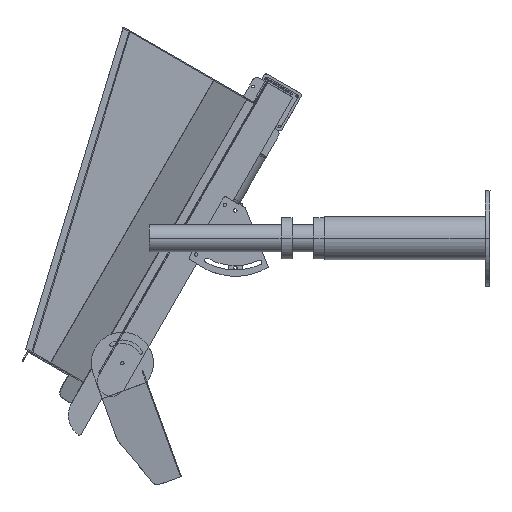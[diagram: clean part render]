
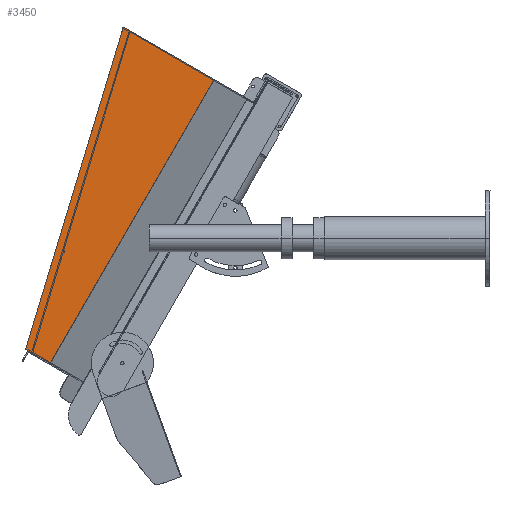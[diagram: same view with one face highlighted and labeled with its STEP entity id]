
A CAD part, left-side view. The second image highlights one B-rep face of the part: STEP entity #3450.
In plain terms, the highlighted planar face has unit normal (-1, 0, 0).
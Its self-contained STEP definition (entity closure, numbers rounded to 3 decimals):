
#398 = AXIS2_PLACEMENT_3D ( 'NONE', #1015, #19452, #19026 ) ;
#402 = ORIENTED_EDGE ( 'NONE', *, *, #3522, .F. ) ;
#514 = VECTOR ( 'NONE', #10049, 1000. ) ;
#1015 = CARTESIAN_POINT ( 'NONE',  ( -3768.201, -228.981, 956.729 ) ) ;
#1227 = AXIS2_PLACEMENT_3D ( 'NONE', #12738, #4454, #17768 ) ;
#2380 = EDGE_CURVE ( 'NONE', #10085, #8226, #7255, .T. ) ;
#2493 = DIRECTION ( 'NONE',  ( 0., 0.29, -0.957 ) ) ;
#2714 = AXIS2_PLACEMENT_3D ( 'NONE', #5284, #12373, #6929 ) ;
#3305 = VECTOR ( 'NONE', #10618, 1000. ) ;
#3450 = ADVANCED_FACE ( 'NONE', ( #12674, #20650 ), #14227, .F. ) ;
#3522 = EDGE_CURVE ( 'NONE', #16491, #7896, #5810, .T. ) ;
#4139 = CARTESIAN_POINT ( 'NONE',  ( -3768.201, -132.609, 985.962 ) ) ;
#4454 = DIRECTION ( 'NONE',  ( -1., 0., 0. ) ) ;
#5283 = VERTEX_POINT ( 'NONE', #13416 ) ;
#5284 = CARTESIAN_POINT ( 'NONE',  ( -3768.201, -164.371, 1030.428 ) ) ;
#5810 = LINE ( 'NONE', #12469, #12924 ) ;
#6652 = EDGE_CURVE ( 'NONE', #7896, #19545, #15168, .T. ) ;
#6806 = CARTESIAN_POINT ( 'NONE',  ( -3768.201, -288.456, 1499.742 ) ) ;
#6929 = DIRECTION ( 'NONE',  ( 0., -0.5, 0.866 ) ) ;
#7130 = ORIENTED_EDGE ( 'NONE', *, *, #13466, .F. ) ;
#7255 = CIRCLE ( 'NONE', #2714, 2.1 ) ;
#7509 = CIRCLE ( 'NONE', #1227, 2.1 ) ;
#7896 = VERTEX_POINT ( 'NONE', #13118 ) ;
#8054 = ORIENTED_EDGE ( 'NONE', *, *, #6652, .F. ) ;
#8226 = VERTEX_POINT ( 'NONE', #17479 ) ;
#8503 = CARTESIAN_POINT ( 'NONE',  ( -3768.201, -228.981, 956.729 ) ) ;
#8800 = ORIENTED_EDGE ( 'NONE', *, *, #9429, .T. ) ;
#8972 = CARTESIAN_POINT ( 'NONE',  ( -3768.201, -135.897, 795.502 ) ) ;
#9252 = LINE ( 'NONE', #4139, #18199 ) ;
#9429 = EDGE_CURVE ( 'NONE', #5283, #19545, #14099, .T. ) ;
#10049 = DIRECTION ( 'NONE',  ( 0., 0.5, -0.866 ) ) ;
#10085 = VERTEX_POINT ( 'NONE', #13721 ) ;
#10618 = DIRECTION ( 'NONE',  ( 0., -0.866, -0.5 ) ) ;
#10839 = DIRECTION ( 'NONE',  ( 0., -0.866, -0.5 ) ) ;
#11199 = EDGE_LOOP ( 'NONE', ( #14700, #8800, #8054, #402 ) ) ;
#11543 = EDGE_LOOP ( 'NONE', ( #7130, #16492 ) ) ;
#12373 = DIRECTION ( 'NONE',  ( -1., 0., 0. ) ) ;
#12469 = CARTESIAN_POINT ( 'NONE',  ( -3768.201, -478.981, 1389.742 ) ) ;
#12674 = FACE_BOUND ( 'NONE', #11543, .T. ) ;
#12738 = CARTESIAN_POINT ( 'NONE',  ( -3768.201, -164.371, 1030.428 ) ) ;
#12924 = VECTOR ( 'NONE', #10839, 1000. ) ;
#13118 = CARTESIAN_POINT ( 'NONE',  ( -3768.201, -478.981, 1389.742 ) ) ;
#13416 = CARTESIAN_POINT ( 'NONE',  ( -3768.201, -83.935, 825.502 ) ) ;
#13466 = EDGE_CURVE ( 'NONE', #8226, #10085, #7509, .T. ) ;
#13721 = CARTESIAN_POINT ( 'NONE',  ( -3768.201, -163.321, 1028.609 ) ) ;
#14099 = LINE ( 'NONE', #15847, #3305 ) ;
#14227 = PLANE ( 'NONE',  #398 ) ;
#14700 = ORIENTED_EDGE ( 'NONE', *, *, #15830, .T. ) ;
#15168 = LINE ( 'NONE', #8503, #514 ) ;
#15830 = EDGE_CURVE ( 'NONE', #16491, #5283, #9252, .T. ) ;
#15847 = CARTESIAN_POINT ( 'NONE',  ( -3768.201, -135.897, 795.502 ) ) ;
#16491 = VERTEX_POINT ( 'NONE', #6806 ) ;
#16492 = ORIENTED_EDGE ( 'NONE', *, *, #2380, .F. ) ;
#17479 = CARTESIAN_POINT ( 'NONE',  ( -3768.201, -165.421, 1032.247 ) ) ;
#17768 = DIRECTION ( 'NONE',  ( 0., -0.5, 0.866 ) ) ;
#18199 = VECTOR ( 'NONE', #2493, 1000. ) ;
#19026 = DIRECTION ( 'NONE',  ( 0., 0.866, 0.5 ) ) ;
#19452 = DIRECTION ( 'NONE',  ( 1., 0., 0. ) ) ;
#19545 = VERTEX_POINT ( 'NONE', #8972 ) ;
#20650 = FACE_OUTER_BOUND ( 'NONE', #11199, .T. ) ;
